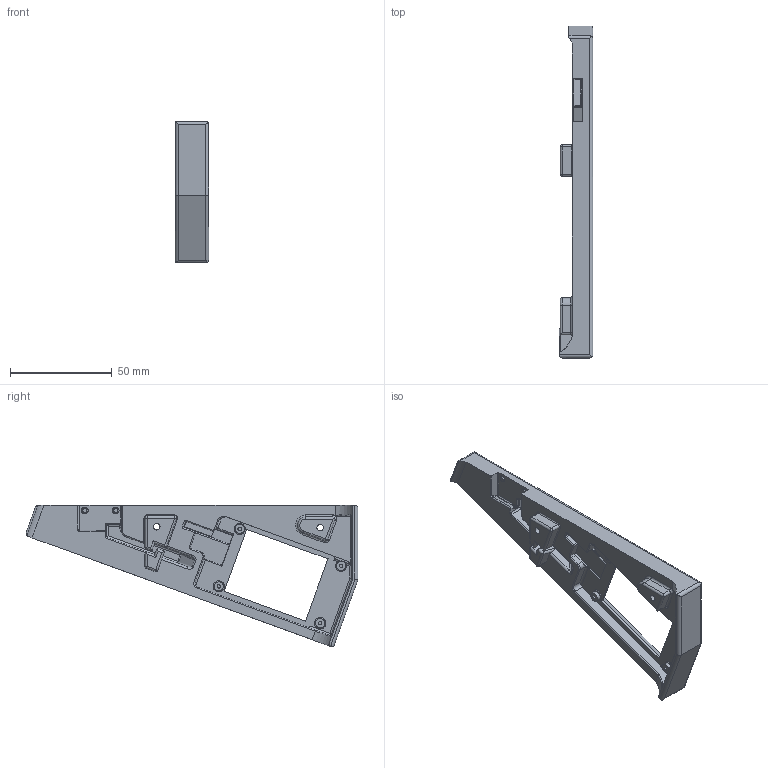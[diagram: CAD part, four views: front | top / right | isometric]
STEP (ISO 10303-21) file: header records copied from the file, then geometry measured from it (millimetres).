
FILE_DESCRIPTION(/* description */ (''),/* implementation_level */ '2;1');
FILE_NAME(/* name */ 'PCB_cover_waveshare_2inchLCD_UsbC.step',/* time_stamp */ '2024-03-16T17:26:44-04:00',/* author */ (''),/* organization */ (''),/* preprocessor_version */ 'ST-DEVELOPER v20',/* originating_system */ 'Autodesk Translation Framework v12.20.1.177',/* authorisation */ '');
FILE_SCHEMA (('AUTOMOTIVE_DESIGN { 1 0 10303 214 3 1 1 }'));
Length unit declared in the file: millimetre
Products named in the file (1): PCB_cover_waveshare_7789_UsbC
Bounding box: 16.5 x 162.98 x 69.36 mm (x, y, z)
Volume: 47587 mm3; surface area: 20292.2 mm2
Topology: 1 solids, 1 shells, 281 faces, 740 edges, 451 vertices
Faces by surface type: cylinder 144, plane 84, torus 29, bspline 13, sphere 7, cone 4
Full cylindrical faces by diameter (mm): 1.7 x4, 2.04 x2, 3.16 x1, 3.2 x1, 4.5 x4, 7.6 x2, 17.2 x1, 18.8 x1
Entity records: 13931 total; most frequent: CARTESIAN_POINT 6991, DIRECTION 1512, ORIENTED_EDGE 1432, EDGE_CURVE 716, AXIS2_PLACEMENT_3D 585, VERTEX_POINT 447, LINE 342, VECTOR 342
